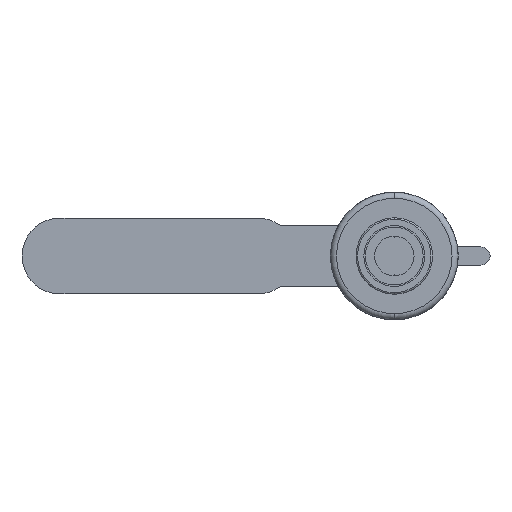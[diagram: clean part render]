
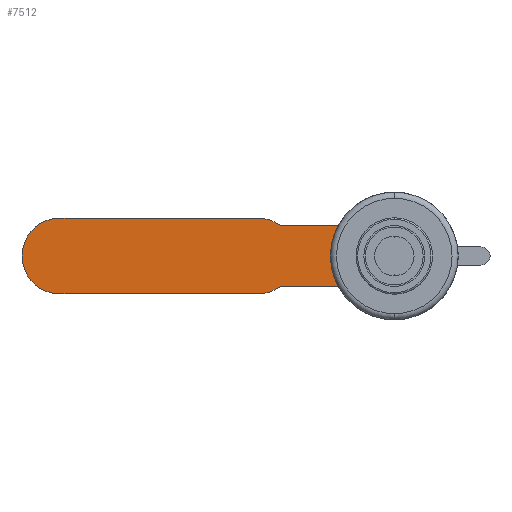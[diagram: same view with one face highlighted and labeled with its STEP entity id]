
A CAD part, left-side view. The second image highlights one B-rep face of the part: STEP entity #7512.
In plain terms, the highlighted planar face has unit normal (-1, 0, 0).
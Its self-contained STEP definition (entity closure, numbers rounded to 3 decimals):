
#148 = VECTOR ( 'NONE', #2081, 1000. ) ;
#202 = LINE ( 'NONE', #5148, #1640 ) ;
#239 = CARTESIAN_POINT ( 'NONE',  ( 20., 18.466, -10. ) ) ;
#278 = EDGE_CURVE ( 'NONE', #3962, #3176, #4862, .T. ) ;
#286 = CIRCLE ( 'NONE', #5535, 12.5 ) ;
#754 = CARTESIAN_POINT ( 'NONE',  ( 20., 110., 12.5 ) ) ;
#776 = PLANE ( 'NONE',  #4400 ) ;
#785 = VERTEX_POINT ( 'NONE', #1260 ) ;
#944 = ORIENTED_EDGE ( 'NONE', *, *, #7023, .F. ) ;
#974 = EDGE_LOOP ( 'NONE', ( #944, #6032, #6156, #6935, #3822, #6659, #2063, #3827 ) ) ;
#1260 = CARTESIAN_POINT ( 'NONE',  ( 20., 110., -12.5 ) ) ;
#1445 = CARTESIAN_POINT ( 'NONE',  ( 20., 110., 0. ) ) ;
#1493 = CARTESIAN_POINT ( 'NONE',  ( 20., 0., 10. ) ) ;
#1593 = CARTESIAN_POINT ( 'NONE',  ( 20., 37.5, 10. ) ) ;
#1640 = VECTOR ( 'NONE', #6984, 1000. ) ;
#1850 = VERTEX_POINT ( 'NONE', #7815 ) ;
#1874 = EDGE_CURVE ( 'NONE', #785, #1850, #6478, .T. ) ;
#2000 = DIRECTION ( 'NONE',  ( 0., 0., 1. ) ) ;
#2063 = ORIENTED_EDGE ( 'NONE', *, *, #7073, .T. ) ;
#2064 = DIRECTION ( 'NONE',  ( 0., 0., 1. ) ) ;
#2081 = DIRECTION ( 'NONE',  ( 0., 1., 0. ) ) ;
#2310 = AXIS2_PLACEMENT_3D ( 'NONE', #3502, #7794, #4113 ) ;
#2322 = DIRECTION ( 'NONE',  ( 0., -1., 0. ) ) ;
#2328 = CARTESIAN_POINT ( 'NONE',  ( 20., 18.466, 10. ) ) ;
#2654 = AXIS2_PLACEMENT_3D ( 'NONE', #3001, #7291, #3606 ) ;
#3001 = CARTESIAN_POINT ( 'NONE',  ( 20., 0., 0. ) ) ;
#3034 = EDGE_CURVE ( 'NONE', #3930, #3735, #202, .T. ) ;
#3087 = DIRECTION ( 'NONE',  ( 0., 1., 0. ) ) ;
#3176 = VERTEX_POINT ( 'NONE', #1593 ) ;
#3502 = CARTESIAN_POINT ( 'NONE',  ( 20., 45., 0. ) ) ;
#3508 = VERTEX_POINT ( 'NONE', #754 ) ;
#3606 = DIRECTION ( 'NONE',  ( 0., 0., 1. ) ) ;
#3661 = CARTESIAN_POINT ( 'NONE',  ( 20., 45., 0. ) ) ;
#3725 = CIRCLE ( 'NONE', #2654, 21. ) ;
#3735 = VERTEX_POINT ( 'NONE', #239 ) ;
#3806 = VECTOR ( 'NONE', #3087, 1000. ) ;
#3822 = ORIENTED_EDGE ( 'NONE', *, *, #4233, .T. ) ;
#3827 = ORIENTED_EDGE ( 'NONE', *, *, #3034, .T. ) ;
#3839 = AXIS2_PLACEMENT_3D ( 'NONE', #1445, #5743, #2064 ) ;
#3858 = VERTEX_POINT ( 'NONE', #4673 ) ;
#3930 = VERTEX_POINT ( 'NONE', #4774 ) ;
#3962 = VERTEX_POINT ( 'NONE', #2328 ) ;
#4006 = LINE ( 'NONE', #4922, #3806 ) ;
#4113 = DIRECTION ( 'NONE',  ( 0., 0., 1. ) ) ;
#4233 = EDGE_CURVE ( 'NONE', #3508, #785, #4982, .T. ) ;
#4286 = DIRECTION ( 'NONE',  ( 0., 0., 1. ) ) ;
#4400 = AXIS2_PLACEMENT_3D ( 'NONE', #5063, #5691, #2000 ) ;
#4656 = EDGE_CURVE ( 'NONE', #3176, #3858, #7187, .T. ) ;
#4673 = CARTESIAN_POINT ( 'NONE',  ( 20., 45., 12.5 ) ) ;
#4774 = CARTESIAN_POINT ( 'NONE',  ( 20., 37.5, -10. ) ) ;
#4862 = LINE ( 'NONE', #1493, #148 ) ;
#4922 = CARTESIAN_POINT ( 'NONE',  ( 20., 110., 12.5 ) ) ;
#4982 = CIRCLE ( 'NONE', #3839, 12.5 ) ;
#5033 = VECTOR ( 'NONE', #2322, 1000. ) ;
#5063 = CARTESIAN_POINT ( 'NONE',  ( 20., 110., 0. ) ) ;
#5148 = CARTESIAN_POINT ( 'NONE',  ( 20., 37.5, -10. ) ) ;
#5394 = CARTESIAN_POINT ( 'NONE',  ( 20., 110., -12.5 ) ) ;
#5535 = AXIS2_PLACEMENT_3D ( 'NONE', #3661, #7951, #4286 ) ;
#5691 = DIRECTION ( 'NONE',  ( -1., 0., 0. ) ) ;
#5743 = DIRECTION ( 'NONE',  ( -1., 0., 0. ) ) ;
#6032 = ORIENTED_EDGE ( 'NONE', *, *, #278, .T. ) ;
#6156 = ORIENTED_EDGE ( 'NONE', *, *, #4656, .T. ) ;
#6478 = LINE ( 'NONE', #5394, #5033 ) ;
#6659 = ORIENTED_EDGE ( 'NONE', *, *, #1874, .T. ) ;
#6935 = ORIENTED_EDGE ( 'NONE', *, *, #7824, .T. ) ;
#6984 = DIRECTION ( 'NONE',  ( 0., -1., 0. ) ) ;
#7023 = EDGE_CURVE ( 'NONE', #3962, #3735, #3725, .T. ) ;
#7073 = EDGE_CURVE ( 'NONE', #1850, #3930, #286, .T. ) ;
#7187 = CIRCLE ( 'NONE', #2310, 12.5 ) ;
#7291 = DIRECTION ( 'NONE',  ( -1., 0., 0. ) ) ;
#7512 = ADVANCED_FACE ( 'NONE', ( #7561 ), #776, .T. ) ;
#7561 = FACE_OUTER_BOUND ( 'NONE', #974, .T. ) ;
#7794 = DIRECTION ( 'NONE',  ( -1., 0., 0. ) ) ;
#7815 = CARTESIAN_POINT ( 'NONE',  ( 20., 45., -12.5 ) ) ;
#7824 = EDGE_CURVE ( 'NONE', #3858, #3508, #4006, .T. ) ;
#7951 = DIRECTION ( 'NONE',  ( -1., 0., 0. ) ) ;
